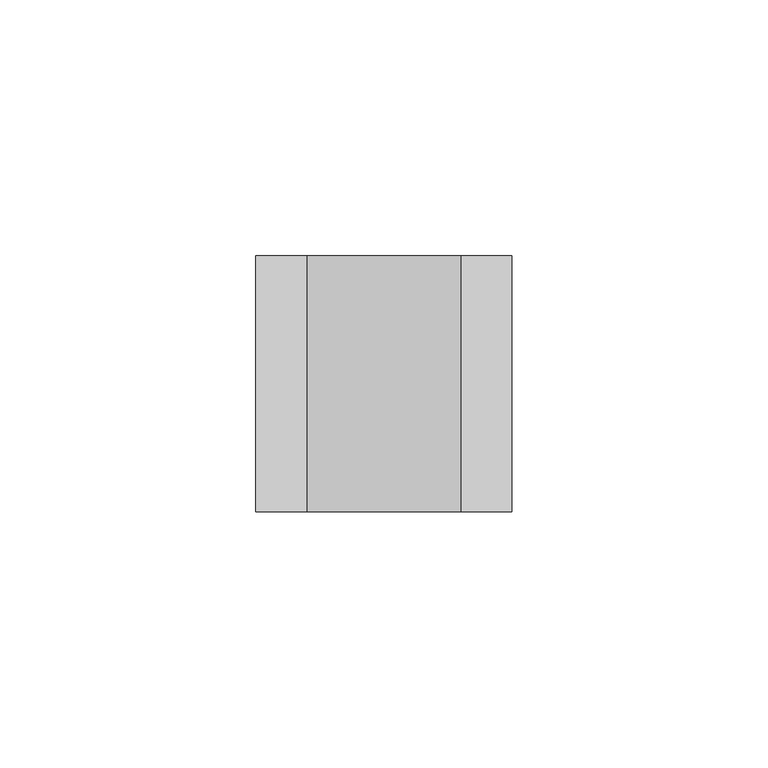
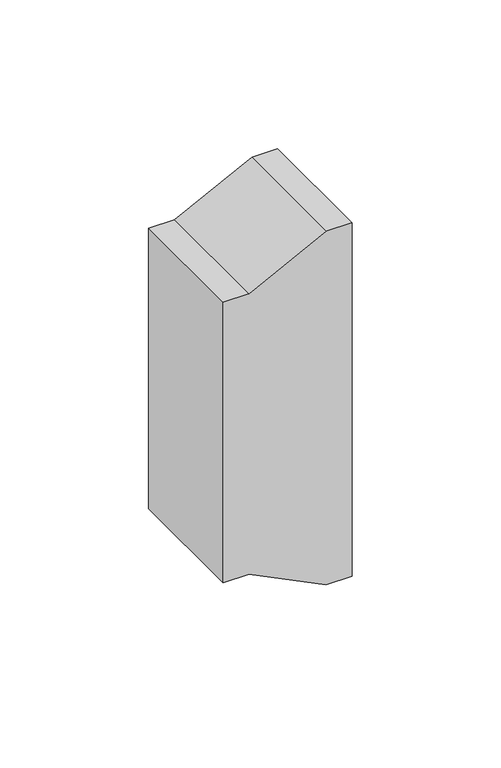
"""IFC4 building model written with IfcOpenShell, lengths in millimetres: duct fitting geometry, КНС_Переход_DKC : Переход."""

from ifc_helpers import new_model, si_unit, frame, origin, place, context, project, spatial, polyline, outline, extrude, source, transform, mapped, element, save


def duct_fitting_55dfbc9a(model_context):
    return source(origin(), model_context, "Body", "SweptSolid", [
        extrude(outline(polyline([(72.5, 50.1665888), (57.5, 20.1665888), (57.5, 10.1665888), (-57.5, 10.1665888), (-57.5, 20.1665888), (-72.5, 50.1665888), (-72.5, 60.1665888), (72.5, 60.1665888), (72.5, 50.1665888)])), frame((0.0, -40.0757244, 0.0), z_axis=(0.0, 1.0, 0.0), x_axis=(0.0, 0.0, 1.0)), (0.0, 0.0, 1.0), 50.0),
    ])


if __name__ == "__main__":
    model = new_model("IFC4")
    model_context = context("Model", 3, world=origin())
    ifc_project = project(units=[si_unit("LENGTHUNIT", "METRE", prefix="MILLI")], contexts=[model_context])
    site = spatial("IfcSite", under=ifc_project)
    building = spatial("IfcBuilding", under=site)
    placement = place(None, origin())
    duct_fitting_shape = duct_fitting_55dfbc9a(model_context)
    element("IfcDuctFitting", 1, ObjectType="КНС_Переход_DKC : Переход", at=placement, inside=building, context=model_context, shape_type="MappedRepresentation", body=[
        mapped(duct_fitting_shape, transform((0.0, 0.0, 0.0), x_axis=(1.0, 0.0, 0.0), y_axis=(0.0, 1.0, 0.0), z_axis=(0.0, 0.0, 1.0))),
    ])
    save(model, "model.ifc")
